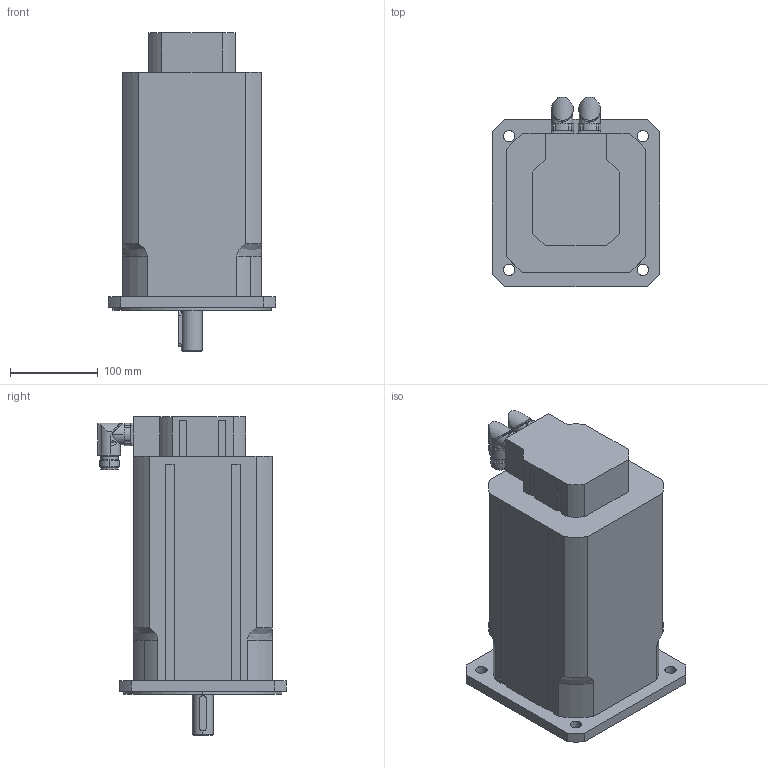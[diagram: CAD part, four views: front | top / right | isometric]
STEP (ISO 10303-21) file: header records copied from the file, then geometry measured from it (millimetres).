
FILE_DESCRIPTION(('STEP AP203'),'2;1');
FILE_NAME('MT6-2200_B.stp','2006-08-28T20:23:38',(''),(''),'2005.2.102','THINKDESIGN','');
FILE_SCHEMA(('CONFIG_CONTROL_DESIGN'));
Length unit declared in the file: millimetre
Bounding box: 190 x 214.5 x 362 mm (x, y, z)
Volume: 7173146.6 mm3; surface area: 281437 mm2
Topology: 3 solids, 3 shells, 258 faces, 685 edges, 443 vertices
Faces by surface type: cylinder 112, plane 108, bspline 38
Full cylindrical faces by diameter (mm): 20 x2
Entity records: 9380 total; most frequent: CARTESIAN_POINT 2860, ORIENTED_EDGE 1366, DIRECTION 1343, EDGE_CURVE 683, AXIS2_PLACEMENT_3D 500, VERTEX_POINT 443, VECTOR 343, LINE 343
